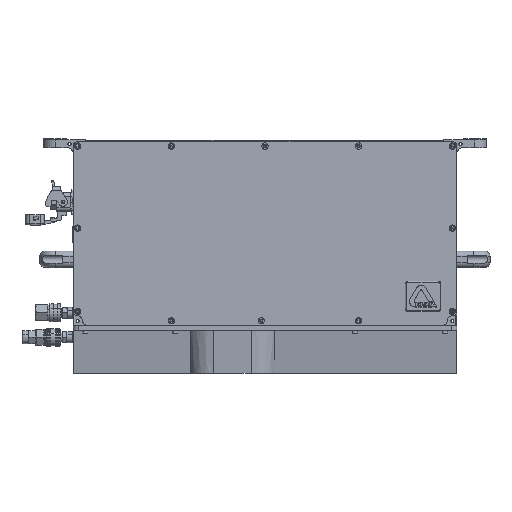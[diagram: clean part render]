
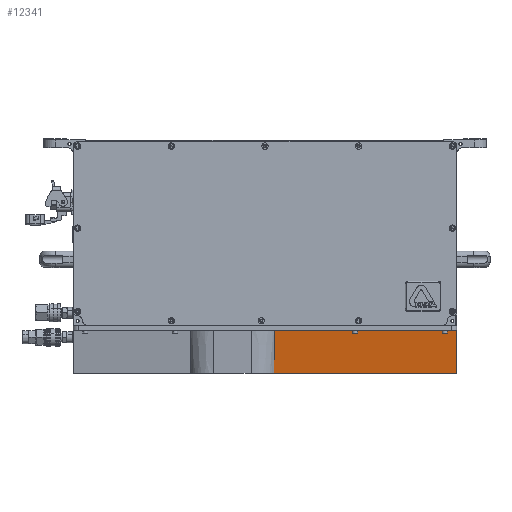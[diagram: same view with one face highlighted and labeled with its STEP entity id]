
A CAD part, top view. The second image highlights one B-rep face of the part: STEP entity #12341.
In plain terms, the highlighted planar face has unit normal (0, -0.156, 0.988).
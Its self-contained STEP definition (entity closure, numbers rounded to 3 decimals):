
#1607 = CARTESIAN_POINT ( 'NONE',  ( 205.844, -159.519, 55.946 ) ) ;
#4613 = EDGE_CURVE ( 'NONE', #17214, #68051, #24002, .T. ) ;
#9675 = ORIENTED_EDGE ( 'NONE', *, *, #4613, .T. ) ;
#10080 = AXIS2_PLACEMENT_3D ( 'NONE', #57343, #21683, #36905 ) ;
#12341 = ADVANCED_FACE ( 'NONE', ( #61905 ), #16792, .F. ) ;
#12942 = CARTESIAN_POINT ( 'NONE',  ( -85.011, -159.519, 55.946 ) ) ;
#13332 = CARTESIAN_POINT ( 'NONE',  ( 205.844, -91.019, 66.795 ) ) ;
#15439 = DIRECTION ( 'NONE',  ( 0., 0.988, 0.156 ) ) ;
#15508 = ORIENTED_EDGE ( 'NONE', *, *, #21859, .F. ) ;
#16792 = PLANE ( 'NONE',  #10080 ) ;
#17214 = VERTEX_POINT ( 'NONE', #23366 ) ;
#17396 = CARTESIAN_POINT ( 'NONE',  ( -404.156, -91.019, 66.795 ) ) ;
#17517 = ORIENTED_EDGE ( 'NONE', *, *, #19913, .T. ) ;
#19913 = EDGE_CURVE ( 'NONE', #68051, #33359, #57384, .T. ) ;
#21683 = DIRECTION ( 'NONE',  ( 0., 0.156, -0.988 ) ) ;
#21859 = EDGE_CURVE ( 'NONE', #50223, #33359, #56768, .T. ) ;
#23366 = CARTESIAN_POINT ( 'NONE',  ( -85.011, -159.519, 55.946 ) ) ;
#24002 = LINE ( 'NONE', #24304, #66638 ) ;
#24304 = CARTESIAN_POINT ( 'NONE',  ( -404.156, -159.519, 55.946 ) ) ;
#28155 = EDGE_CURVE ( 'NONE', #50223, #17214, #60691, .T. ) ;
#28488 = VECTOR ( 'NONE', #15439, 1000. ) ;
#30939 = ORIENTED_EDGE ( 'NONE', *, *, #28155, .T. ) ;
#33359 = VERTEX_POINT ( 'NONE', #13332 ) ;
#33447 = CARTESIAN_POINT ( 'NONE',  ( -84.143, -114.026, 63.151 ) ) ;
#35215 = EDGE_LOOP ( 'NONE', ( #15508, #30939, #9675, #17517 ) ) ;
#36905 = DIRECTION ( 'NONE',  ( 0., -0.988, -0.156 ) ) ;
#48221 = CARTESIAN_POINT ( 'NONE',  ( 205.844, -159.519, 55.946 ) ) ;
#50223 = VERTEX_POINT ( 'NONE', #63764 ) ;
#53556 = CARTESIAN_POINT ( 'NONE',  ( -84.391, -136.976, 59.517 ) ) ;
#55072 = VECTOR ( 'NONE', #61086, 1000. ) ;
#56768 = LINE ( 'NONE', #17396, #55072 ) ;
#57343 = CARTESIAN_POINT ( 'NONE',  ( -404.156, -159.519, 55.946 ) ) ;
#57384 = LINE ( 'NONE', #48221, #28488 ) ;
#60691 =( BOUNDED_CURVE ( )  B_SPLINE_CURVE ( 3, ( #63892, #33447, #53556, #12942 ),
 .UNSPECIFIED., .F., .T. ) 
 B_SPLINE_CURVE_WITH_KNOTS ( ( 4, 4 ),
 ( 1.529, 1.776 ),
 .UNSPECIFIED. ) 
 CURVE ( )  GEOMETRIC_REPRESENTATION_ITEM ( )  RATIONAL_B_SPLINE_CURVE ( ( 1., 0.995, 0.995, 1. ) ) 
 REPRESENTATION_ITEM ( '' )  );
#61086 = DIRECTION ( 'NONE',  ( 1., 0., 0. ) ) ;
#61905 = FACE_OUTER_BOUND ( 'NONE', #35215, .T. ) ;
#63764 = CARTESIAN_POINT ( 'NONE',  ( -84.268, -91.019, 66.795 ) ) ;
#63892 = CARTESIAN_POINT ( 'NONE',  ( -84.268, -91.019, 66.795 ) ) ;
#66638 = VECTOR ( 'NONE', #67007, 1000. ) ;
#67007 = DIRECTION ( 'NONE',  ( 1., 0., 0. ) ) ;
#68051 = VERTEX_POINT ( 'NONE', #1607 ) ;
